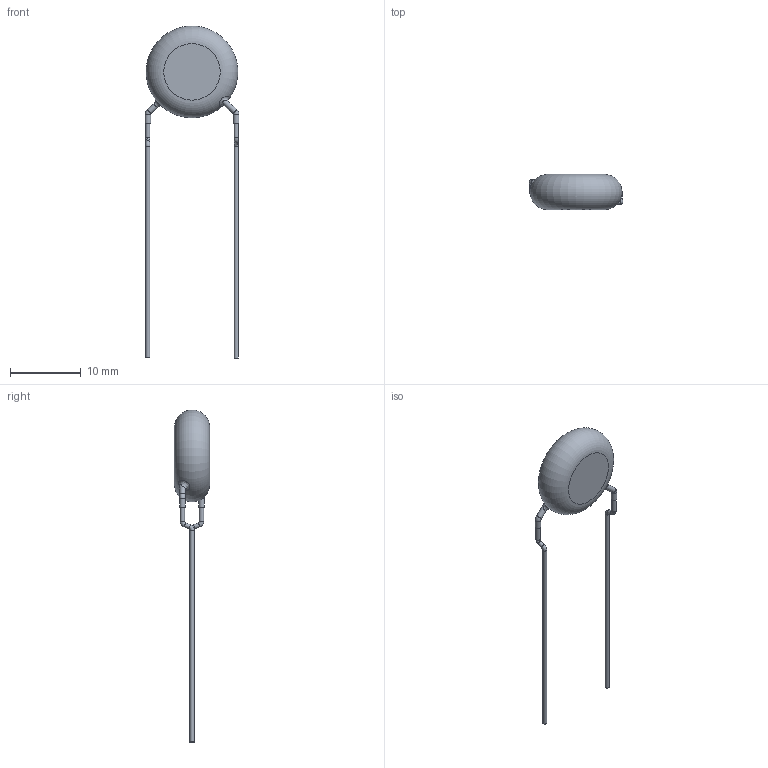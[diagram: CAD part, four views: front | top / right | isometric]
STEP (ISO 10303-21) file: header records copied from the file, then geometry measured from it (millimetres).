
FILE_DESCRIPTION((''),'2;1');
FILE_NAME('I:\Marketing\M6t1\3D-Models\Zchng-Werk-3\Upload for homepage\BCC\VY1-Compact\Y5U-12,5mm\VY1332M51Y5UC63VX\VY1332M51Y5UC63VX.stp','2015-09-01T11:55:46',('sherden'),(''),'Autodesk Inventor 2013','Autodesk Inventor 2013','');
FILE_SCHEMA(('CONFIG_CONTROL_DESIGN'));
Length unit declared in the file: millimetre
Products named in the file (1): VY1332M51Y5UC63VX
Bounding box: 13.3 x 5 x 47 mm (x, y, z)
Volume: 587 mm3; surface area: 523.2 mm2
Topology: 1 solids, 1 shells, 25 faces, 45 edges, 26 vertices
Faces by surface type: cylinder 10, torus 7, plane 6, bspline 2
Full cylindrical faces by diameter (mm): 0.6 x6, 0.8 x4
Entity records: 827 total; most frequent: CARTESIAN_POINT 350, DIRECTION 92, ORIENTED_EDGE 52, AXIS2_PLACEMENT_3D 46, EDGE_LOOP 46, EDGE_CURVE 26, STYLED_ITEM 26, FACE_OUTER_BOUND 25
